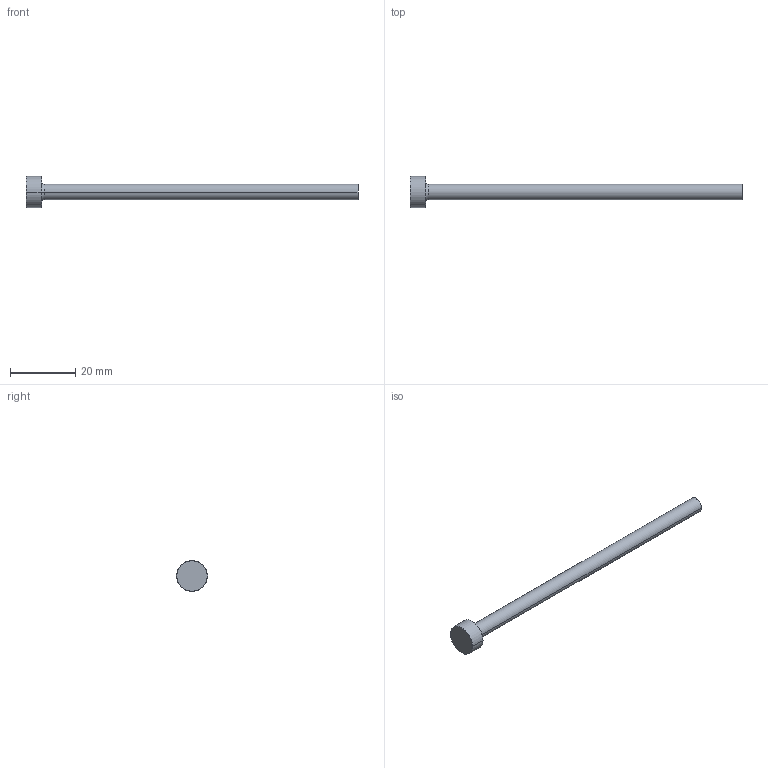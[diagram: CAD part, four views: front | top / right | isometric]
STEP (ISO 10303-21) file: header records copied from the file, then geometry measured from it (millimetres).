
FILE_DESCRIPTION (( 'STEP AP214' ), '1' );
FILE_NAME ('P13-4.STEP', '2020-03-11T18:17:56', ( '' ), ( '' ), 'SwSTEP 2.0', 'SolidWorks 2018', '' );
FILE_SCHEMA (( 'AUTOMOTIVE_DESIGN' ));
Length unit declared in the file: inch
Products named in the file (1): P13-4
Bounding box: 101.6 x 9.53 x 9.53 mm (x, y, z)
Volume: 2060.6 mm3; surface area: 1723.4 mm2
Topology: 1 solids, 1 shells, 13 faces, 24 edges, 14 vertices
Faces by surface type: cone 4, cylinder 4, plane 3, torus 2
Entity records: 366 total; most frequent: DIRECTION 68, CARTESIAN_POINT 52, ORIENTED_EDGE 48, AXIS2_PLACEMENT_3D 30, EDGE_CURVE 24, CIRCLE 16, EDGE_LOOP 14, VERTEX_POINT 14
